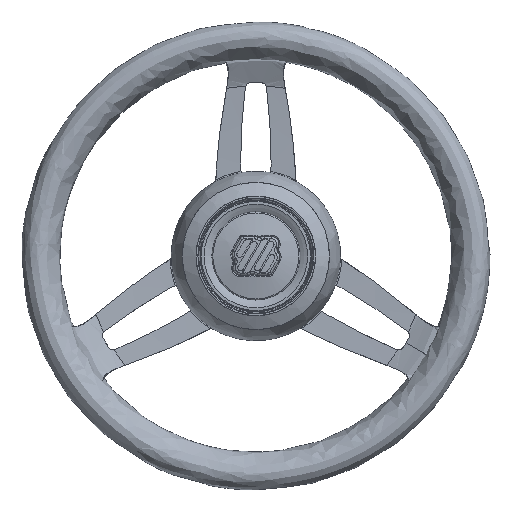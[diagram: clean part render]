
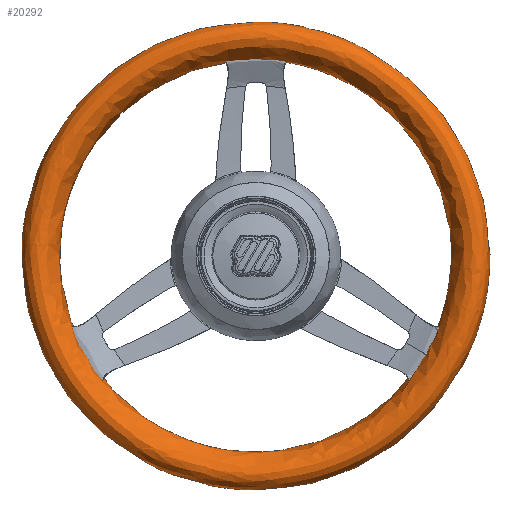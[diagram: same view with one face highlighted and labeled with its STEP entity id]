
A CAD part, top view. The second image highlights one B-rep face of the part: STEP entity #20292.
In plain terms, the highlighted free-form (B-spline) face has degree [2, 2] with [9, 9] control points.
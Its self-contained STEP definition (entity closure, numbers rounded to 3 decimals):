
#468=ELLIPSE('',#22515,19.,14.);
#1152=(
BOUNDED_SURFACE()
B_SPLINE_SURFACE(2,2,((#62380,#62381,#62382,#62383,#62384,#62385,#62386,
#62387,#62388),(#62389,#62390,#62391,#62392,#62393,#62394,#62395,#62396,
#62397),(#62398,#62399,#62400,#62401,#62402,#62403,#62404,#62405,#62406),
(#62407,#62408,#62409,#62410,#62411,#62412,#62413,#62414,#62415),(#62416,
#62417,#62418,#62419,#62420,#62421,#62422,#62423,#62424),(#62425,#62426,
#62427,#62428,#62429,#62430,#62431,#62432,#62433),(#62434,#62435,#62436,
#62437,#62438,#62439,#62440,#62441,#62442),(#62443,#62444,#62445,#62446,
#62447,#62448,#62449,#62450,#62451),(#62452,#62453,#62454,#62455,#62456,
#62457,#62458,#62459,#62460)),.UNSPECIFIED.,.T.,.T.,.F.)
B_SPLINE_SURFACE_WITH_KNOTS((3,2,2,2,3),(3,2,2,2,3),(-3.142,
-1.571,0.,1.571,3.142),(0.,1.571,
3.142,4.712,6.283),.UNSPECIFIED.)
GEOMETRIC_REPRESENTATION_ITEM()
RATIONAL_B_SPLINE_SURFACE(((1.,0.707,1.,0.707,1.,
0.707,1.,0.707,1.),(0.707,0.5,
0.707,0.5,0.707,0.5,0.707,
0.5,0.707),(1.,0.707,1.,0.707,
1.,0.707,1.,0.707,1.),(0.707,0.5,
0.707,0.5,0.707,0.5,
0.707,0.5,0.707),(1.,0.707,
1.,0.707,1.,0.707,1.,0.707,1.),(0.707,
0.5,0.707,0.5,0.707,
0.5,0.707,0.5,0.707),
(1.,0.707,1.,0.707,1.,0.707,1.,0.707,
1.),(0.707,0.5,0.707,0.5,
0.707,0.5,0.707,0.5,
0.707),(1.,0.707,1.,0.707,1.,0.707,
1.,0.707,1.)))
REPRESENTATION_ITEM('')
SURFACE()
);
#5358=FACE_OUTER_BOUND('',#6800,.T.);
#6800=EDGE_LOOP('',(#18733,#18734,#18735,#18736));
#7910=CIRCLE('',#22516,154.328);
#9880=VERTEX_POINT('',#62461);
#12832=EDGE_CURVE('',#9880,#9880,#468,.T.);
#12833=EDGE_CURVE('',#9880,#9880,#7910,.T.);
#18733=ORIENTED_EDGE('',*,*,#12832,.T.);
#18734=ORIENTED_EDGE('',*,*,#12833,.F.);
#18735=ORIENTED_EDGE('',*,*,#12832,.F.);
#18736=ORIENTED_EDGE('',*,*,#12833,.T.);
#20292=ADVANCED_FACE('',(#5358),#1152,.T.);
#22515=AXIS2_PLACEMENT_3D('',#62462,#28006,#28007);
#22516=AXIS2_PLACEMENT_3D('',#62463,#28008,#28009);
#28006=DIRECTION('center_axis',(0.,0.,-1.));
#28007=DIRECTION('ref_axis',(-0.342,0.94,0.));
#28008=DIRECTION('center_axis',(0.,1.,0.));
#28009=DIRECTION('ref_axis',(-1.,0.,0.));
#62380=CARTESIAN_POINT('Ctrl Pts',(-154.328,-17.854,
0.));
#62381=CARTESIAN_POINT('Ctrl Pts',(-154.328,-17.854,
154.328));
#62382=CARTESIAN_POINT('Ctrl Pts',(0.,-17.854,154.328));
#62383=CARTESIAN_POINT('Ctrl Pts',(154.328,-17.854,154.328));
#62384=CARTESIAN_POINT('Ctrl Pts',(154.328,-17.854,0.));
#62385=CARTESIAN_POINT('Ctrl Pts',(154.328,-17.854,-154.328));
#62386=CARTESIAN_POINT('Ctrl Pts',(0.,-17.854,-154.328));
#62387=CARTESIAN_POINT('Ctrl Pts',(-154.328,-17.854,
-154.328));
#62388=CARTESIAN_POINT('Ctrl Pts',(-154.328,-17.854,
0.));
#62389=CARTESIAN_POINT('Ctrl Pts',(-141.173,-13.066,
0.));
#62390=CARTESIAN_POINT('Ctrl Pts',(-141.173,-13.066,
141.173));
#62391=CARTESIAN_POINT('Ctrl Pts',(0.,-13.066,141.173));
#62392=CARTESIAN_POINT('Ctrl Pts',(141.173,-13.066,141.173));
#62393=CARTESIAN_POINT('Ctrl Pts',(141.173,-13.066,0.));
#62394=CARTESIAN_POINT('Ctrl Pts',(141.173,-13.066,-141.173));
#62395=CARTESIAN_POINT('Ctrl Pts',(0.,-13.066,-141.173));
#62396=CARTESIAN_POINT('Ctrl Pts',(-141.173,-13.066,
-141.173));
#62397=CARTESIAN_POINT('Ctrl Pts',(-141.173,-13.066,
0.));
#62398=CARTESIAN_POINT('Ctrl Pts',(-147.671,4.788,0.));
#62399=CARTESIAN_POINT('Ctrl Pts',(-147.671,4.788,147.671));
#62400=CARTESIAN_POINT('Ctrl Pts',(0.,4.788,147.671));
#62401=CARTESIAN_POINT('Ctrl Pts',(147.671,4.788,147.671));
#62402=CARTESIAN_POINT('Ctrl Pts',(147.671,4.788,0.));
#62403=CARTESIAN_POINT('Ctrl Pts',(147.671,4.788,-147.671));
#62404=CARTESIAN_POINT('Ctrl Pts',(0.,4.788,-147.671));
#62405=CARTESIAN_POINT('Ctrl Pts',(-147.671,4.788,-147.671));
#62406=CARTESIAN_POINT('Ctrl Pts',(-147.671,4.788,0.));
#62407=CARTESIAN_POINT('Ctrl Pts',(-154.17,22.642,0.));
#62408=CARTESIAN_POINT('Ctrl Pts',(-154.17,22.642,154.17));
#62409=CARTESIAN_POINT('Ctrl Pts',(0.,22.642,154.17));
#62410=CARTESIAN_POINT('Ctrl Pts',(154.17,22.642,154.17));
#62411=CARTESIAN_POINT('Ctrl Pts',(154.17,22.642,0.));
#62412=CARTESIAN_POINT('Ctrl Pts',(154.17,22.642,-154.17));
#62413=CARTESIAN_POINT('Ctrl Pts',(0.,22.642,-154.17));
#62414=CARTESIAN_POINT('Ctrl Pts',(-154.17,22.642,-154.17));
#62415=CARTESIAN_POINT('Ctrl Pts',(-154.17,22.642,0.));
#62416=CARTESIAN_POINT('Ctrl Pts',(-167.325,17.854,0.));
#62417=CARTESIAN_POINT('Ctrl Pts',(-167.325,17.854,167.325));
#62418=CARTESIAN_POINT('Ctrl Pts',(0.,17.854,167.325));
#62419=CARTESIAN_POINT('Ctrl Pts',(167.325,17.854,167.325));
#62420=CARTESIAN_POINT('Ctrl Pts',(167.325,17.854,0.));
#62421=CARTESIAN_POINT('Ctrl Pts',(167.325,17.854,-167.325));
#62422=CARTESIAN_POINT('Ctrl Pts',(0.,17.854,-167.325));
#62423=CARTESIAN_POINT('Ctrl Pts',(-167.325,17.854,-167.325));
#62424=CARTESIAN_POINT('Ctrl Pts',(-167.325,17.854,0.));
#62425=CARTESIAN_POINT('Ctrl Pts',(-180.481,13.066,0.));
#62426=CARTESIAN_POINT('Ctrl Pts',(-180.481,13.066,180.481));
#62427=CARTESIAN_POINT('Ctrl Pts',(0.,13.066,180.481));
#62428=CARTESIAN_POINT('Ctrl Pts',(180.481,13.066,180.481));
#62429=CARTESIAN_POINT('Ctrl Pts',(180.481,13.066,0.));
#62430=CARTESIAN_POINT('Ctrl Pts',(180.481,13.066,-180.481));
#62431=CARTESIAN_POINT('Ctrl Pts',(0.,13.066,-180.481));
#62432=CARTESIAN_POINT('Ctrl Pts',(-180.481,13.066,-180.481));
#62433=CARTESIAN_POINT('Ctrl Pts',(-180.481,13.066,0.));
#62434=CARTESIAN_POINT('Ctrl Pts',(-173.983,-4.788,
0.));
#62435=CARTESIAN_POINT('Ctrl Pts',(-173.983,-4.788,
173.983));
#62436=CARTESIAN_POINT('Ctrl Pts',(0.,-4.788,173.983));
#62437=CARTESIAN_POINT('Ctrl Pts',(173.983,-4.788,173.983));
#62438=CARTESIAN_POINT('Ctrl Pts',(173.983,-4.788,0.));
#62439=CARTESIAN_POINT('Ctrl Pts',(173.983,-4.788,-173.983));
#62440=CARTESIAN_POINT('Ctrl Pts',(0.,-4.788,-173.983));
#62441=CARTESIAN_POINT('Ctrl Pts',(-173.983,-4.788,
-173.983));
#62442=CARTESIAN_POINT('Ctrl Pts',(-173.983,-4.788,
0.));
#62443=CARTESIAN_POINT('Ctrl Pts',(-167.484,-22.642,
0.));
#62444=CARTESIAN_POINT('Ctrl Pts',(-167.484,-22.642,
167.484));
#62445=CARTESIAN_POINT('Ctrl Pts',(0.,-22.642,167.484));
#62446=CARTESIAN_POINT('Ctrl Pts',(167.484,-22.642,167.484));
#62447=CARTESIAN_POINT('Ctrl Pts',(167.484,-22.642,0.));
#62448=CARTESIAN_POINT('Ctrl Pts',(167.484,-22.642,-167.484));
#62449=CARTESIAN_POINT('Ctrl Pts',(0.,-22.642,-167.484));
#62450=CARTESIAN_POINT('Ctrl Pts',(-167.484,-22.642,
-167.484));
#62451=CARTESIAN_POINT('Ctrl Pts',(-167.484,-22.642,
0.));
#62452=CARTESIAN_POINT('Ctrl Pts',(-154.328,-17.854,
0.));
#62453=CARTESIAN_POINT('Ctrl Pts',(-154.328,-17.854,
154.328));
#62454=CARTESIAN_POINT('Ctrl Pts',(0.,-17.854,154.328));
#62455=CARTESIAN_POINT('Ctrl Pts',(154.328,-17.854,154.328));
#62456=CARTESIAN_POINT('Ctrl Pts',(154.328,-17.854,0.));
#62457=CARTESIAN_POINT('Ctrl Pts',(154.328,-17.854,-154.328));
#62458=CARTESIAN_POINT('Ctrl Pts',(0.,-17.854,-154.328));
#62459=CARTESIAN_POINT('Ctrl Pts',(-154.328,-17.854,
-154.328));
#62460=CARTESIAN_POINT('Ctrl Pts',(-154.328,-17.854,
0.));
#62461=CARTESIAN_POINT('',(-154.328,-17.854,0.));
#62462=CARTESIAN_POINT('Origin',(-160.827,0.,0.));
#62463=CARTESIAN_POINT('Origin',(0.,-17.854,0.));
